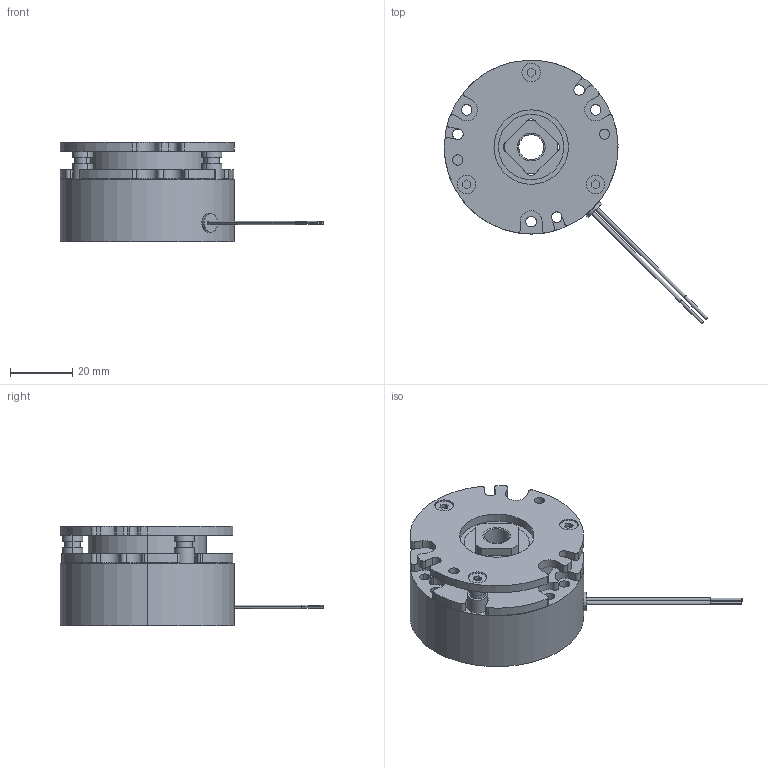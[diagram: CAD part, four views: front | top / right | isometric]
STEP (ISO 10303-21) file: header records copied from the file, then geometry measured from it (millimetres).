
FILE_DESCRIPTION (( 'STEP AP214' ), '1' );
FILE_NAME ('BXW-03-10H-8_STEP.STEP', '2018-06-29T00:02:22', ( 'MIKI' ), ( '' ), 'SwSTEP 2.0', 'SolidWorks 2012', '' );
FILE_SCHEMA (( 'AUTOMOTIVE_DESIGN' ));
Length unit declared in the file: millimetre
Products named in the file (1): BXW-03-10H-8_STEP
Bounding box: 84.89 x 84.89 x 31.9 mm (x, y, z)
Volume: 60275.3 mm3; surface area: 21781.6 mm2
Topology: 1 solids, 1 shells, 274 faces, 713 edges, 464 vertices
Faces by surface type: cylinder 151, plane 107, cone 16
Entity records: 11767 total; most frequent: CARTESIAN_POINT 1690, DIRECTION 1545, ORIENTED_EDGE 1418, EDGE_CURVE 709, AXIS2_PLACEMENT_3D 579, VERTEX_POINT 464, LINE 387, VECTOR 387
